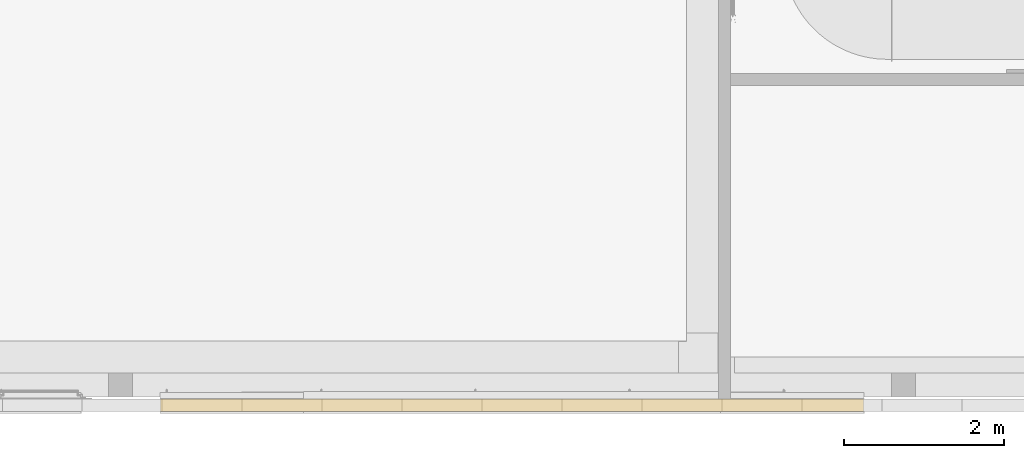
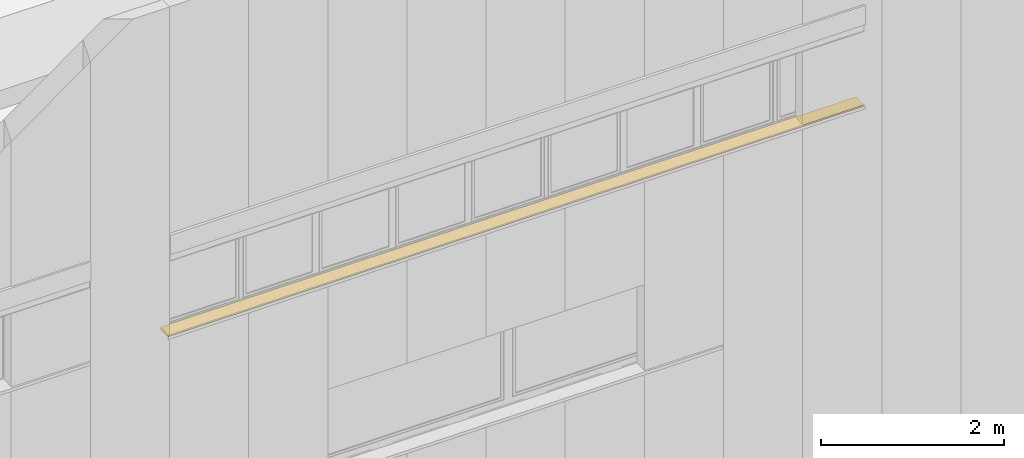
# One storey, part 224 of 302: 1 curtain wall, 1 opening, 1 element without a shape of its own.
"""IFC2X3 building model written with IfcOpenShell, lengths in metres."""

from ifc_helpers import new_model, entity, si_unit, converted_unit, derived_unit, direction, frame, frame_2d, origin, place, context, subcontext, project, spatial, rectangle, extrude, faceted_brep, material, layer, layer_set, layer_usage, type_object, element, aggregate, save


model = new_model("IFC2X3")

# Units and contexts
model_context = context("Model", 3, precision=1e-05, world=origin(), true_north=direction((6.12303176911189e-17, 1.0)))
body_context = subcontext(model_context, "Body", "Model", "MODEL_VIEW")
ifc_project = project(units=[si_unit("LENGTHUNIT", "METRE"), si_unit("AREAUNIT", "SQUARE_METRE"), si_unit("VOLUMEUNIT", "CUBIC_METRE"), converted_unit("PLANEANGLEUNIT", "DEGREE", entity("IfcRatioMeasure", 0.0174532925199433), si_unit("PLANEANGLEUNIT", "RADIAN"), dimensions=[0, 0, 0, 0, 0, 0, 0]), si_unit("MASSUNIT", "GRAM", prefix="KILO"), derived_unit("MASSDENSITYUNIT", [(si_unit("MASSUNIT", "GRAM", prefix="KILO"), 1), (si_unit("LENGTHUNIT", "METRE"), -3)]), derived_unit("MOMENTOFINERTIAUNIT", [(si_unit("LENGTHUNIT", "METRE"), 4)]), si_unit("TIMEUNIT", "SECOND"), si_unit("FREQUENCYUNIT", "HERTZ"), si_unit("THERMODYNAMICTEMPERATUREUNIT", "DEGREE_CELSIUS"), derived_unit("THERMALTRANSMITTANCEUNIT", [(si_unit("MASSUNIT", "GRAM", prefix="KILO"), 1), (si_unit("THERMODYNAMICTEMPERATUREUNIT", "KELVIN"), -1), (si_unit("TIMEUNIT", "SECOND"), -3)]), derived_unit("VOLUMETRICFLOWRATEUNIT", [(si_unit("LENGTHUNIT", "METRE"), 3), (si_unit("TIMEUNIT", "SECOND"), -1)]), si_unit("ELECTRICCURRENTUNIT", "AMPERE"), si_unit("ELECTRICVOLTAGEUNIT", "VOLT"), si_unit("POWERUNIT", "WATT"), si_unit("FORCEUNIT", "NEWTON", prefix="KILO"), si_unit("ILLUMINANCEUNIT", "LUX"), si_unit("LUMINOUSFLUXUNIT", "LUMEN"), si_unit("LUMINOUSINTENSITYUNIT", "CANDELA"), derived_unit("USERDEFINED", [(si_unit("MASSUNIT", "GRAM", prefix="KILO"), -1), (si_unit("LENGTHUNIT", "METRE"), -2), (si_unit("TIMEUNIT", "SECOND"), 3), (si_unit("LUMINOUSFLUXUNIT", "LUMEN"), 1)]), derived_unit("LINEARVELOCITYUNIT", [(si_unit("LENGTHUNIT", "METRE"), 1), (si_unit("TIMEUNIT", "SECOND"), -1)]), si_unit("PRESSUREUNIT", "PASCAL"), derived_unit("USERDEFINED", [(si_unit("LENGTHUNIT", "METRE"), -2), (si_unit("MASSUNIT", "GRAM", prefix="KILO"), 1), (si_unit("TIMEUNIT", "SECOND"), -2)]), derived_unit("LINEARFORCEUNIT", [(si_unit("MASSUNIT", "GRAM", prefix="KILO"), 1), (si_unit("LENGTHUNIT", "METRE"), 1), (si_unit("TIMEUNIT", "SECOND"), -2), (si_unit("LENGTHUNIT", "METRE"), -1)]), derived_unit("PLANARFORCEUNIT", [(si_unit("MASSUNIT", "GRAM", prefix="KILO"), 1), (si_unit("LENGTHUNIT", "METRE"), 1), (si_unit("TIMEUNIT", "SECOND"), -2), (si_unit("LENGTHUNIT", "METRE"), -2)])], contexts=[model_context])

# Site, building, storey
site_placement = place(None, origin())
site = spatial("IfcSite", under=ifc_project, at=site_placement, Name="Default", CompositionType="ELEMENT")
building_placement = place(site_placement, origin())
building = spatial("IfcBuilding", under=site, at=building_placement, CompositionType="ELEMENT")
storey_placement = place(building_placement, frame((0.0, 0.0, -1.3)))
storey = spatial("IfcBuildingStorey", under=building, at=storey_placement, Name="00_EG", CompositionType="ELEMENT", Elevation=-1.3)

# Curtain walls, opening
curtain_wall_type_1 = type_object("IfcCurtainWallType", Name="Fassade:Sandwichpaneele 16cm", PredefinedType="NOTDEFINED")
curtain_wall_1_placement = place(storey_placement, frame((0.0, 0.0, 1.3)))
curtain_wall_1 = element("IfcCurtainWall", 1, at=curtain_wall_1_placement, inside=storey, type_object=curtain_wall_type_1, Name="Fassade:Sandwichpaneele 16cm", ObjectType="Fassade:Sandwichpaneele 16cm")
ifc_material_1 = material(Name="Prepainted_Steel-ArcelorMittal_Construction_HAIRULTRA-35-CORAL-4309-[RAL_3000]")
ifc_layer_1 = layer(ifc_material_1, 0.015)
ifc_material_2 = material(Name="ArcelorMittal-MineralWool")
ifc_layer_2 = layer(ifc_material_2, 0.13)
ifc_material_3 = material(Name="Prepainted_Steel-ArcelorMittal_Construction_INTÉRIEUR-12-WHITE-912")
ifc_layer_3 = layer(ifc_material_3, 0.015)
ifc_layer_set = layer_set([ifc_layer_1, ifc_layer_2, ifc_layer_3], Name="Fassade:Sandwichpaneele 16cm")
ifc_layer_usage = layer_usage(ifc_layer_set, "AXIS2", "POSITIVE", -0.08)
curtain_wall_type_2 = type_object("IfcCurtainWallType", Name="Basiswand:Sandwichpaneele d = 16cm aussen", PredefinedType="NOTDEFINED", material=ifc_layer_set)
curtain_wall_2_placement = place(storey_placement, frame((-226.860736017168, 14.898088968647, 6.71999999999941)))
curtain_wall_2 = element("IfcCurtainWall", 2, at=curtain_wall_2_placement, type_object=curtain_wall_type_2, material=ifc_layer_usage, Name="Basiswand:Sandwichpaneele d = 16cm aussen", ObjectType="Basiswand:Sandwichpaneele d = 16cm aussen", context=body_context, shape_type="SweptSolid", body=[
    extrude(rectangle(XDim=8.78874999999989, YDim=0.159999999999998, at=frame_2d((4.39437499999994, 0.0), x_axis=(-1.0, 0.0))), origin(), (0.0, 0.0, 1.0), 0.0345454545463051),
])
opening_placement = place(curtain_wall_2_placement, frame((-0.00562500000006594, -0.080000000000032, 0.0200000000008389)))
element("IfcOpeningElement", 3, at=opening_placement, cuts=curtain_wall_2, Name="Basiswand:Sandwichpaneele d = 16cm aussen", ObjectType="Opening", context=body_context, shape_type="Brep", body=[
    faceted_brep([(0.0, 0.165000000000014, 1.43499999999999), (8.80000000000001, 0.164999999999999, 1.43499999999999), (8.80000000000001, 0.164999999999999, 0.0150000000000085), (0.0, 0.165000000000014, 0.0150000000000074), (0.0, 0.0, 1.43499999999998), (0.0, 0.0, 0.0), (8.79999999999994, 0.0, 0.0), (8.79999999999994, 0.0, 1.43499999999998)], [[[0, 1, 2, 3]], [[4, 5, 6, 7]], [[5, 4, 0, 3]], [[6, 5, 3, 2]], [[7, 6, 2, 1]], [[4, 7, 1, 0]]]),
])
aggregate(curtain_wall_1, [curtain_wall_2])

save(model, "model.ifc")
